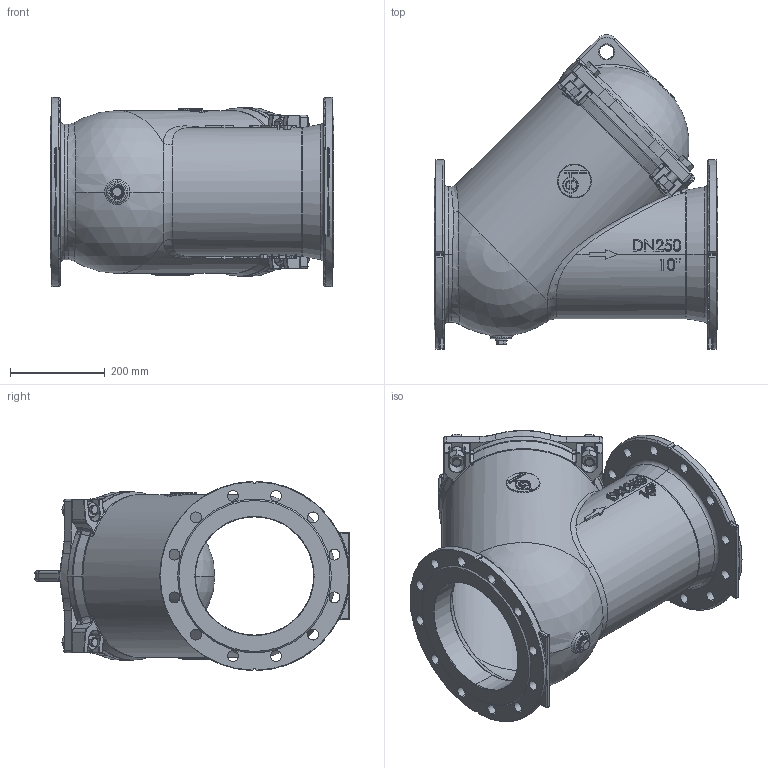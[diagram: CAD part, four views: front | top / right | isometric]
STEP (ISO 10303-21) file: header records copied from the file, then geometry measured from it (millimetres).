
FILE_DESCRIPTION (( 'STEP AP203' ), '1' );
FILE_NAME ('642000017-1.STEP', '2018-02-26T13:26:41', ( '' ), ( '' ), 'SwSTEP 2.0', 'SolidWorks 2017', '' );
FILE_SCHEMA (( 'CONFIG_CONTROL_DESIGN' ));
Length unit declared in the file: millimetre
Products named in the file (1): 642000017-1
Bounding box: 600 x 664.02 x 399.82 mm (x, y, z)
Surface area: 2189121.2 mm2 (no closed solid volume)
Topology: 0 solids, 24 shells, 1165 faces, 3228 edges, 2001 vertices
Faces by surface type: cylinder 353, plane 339, bspline 211, torus 134, cone 90, sphere 38
Entity records: 53265 total; most frequent: CARTESIAN_POINT 25334, ORIENTED_EDGE 5715, DIRECTION 5626, EDGE_CURVE 3181, AXIS2_PLACEMENT_3D 2185, VERTEX_POINT 1990, EDGE_LOOP 1281, LINE 1256
